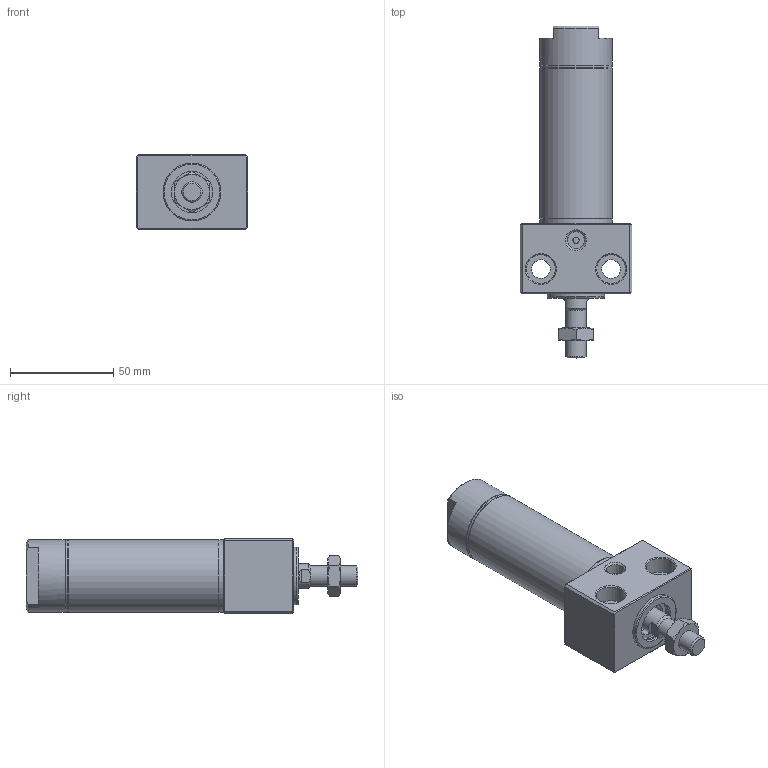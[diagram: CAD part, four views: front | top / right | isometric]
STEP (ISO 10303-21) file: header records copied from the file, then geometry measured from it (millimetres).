
FILE_DESCRIPTION((''),'2;1');
FILE_NAME('I:\3D電子目錄\氣缸\DBS\DBS\DBS30x25.stp','2007-10-08T08:42:52',('Administrator'),(''),'Autodesk Inventor 2008','Autodesk Inventor 2008','');
FILE_SCHEMA(('AUTOMOTIVE_DESIGN { 1 0 10303 214 1 1 1 1 }'));
Length unit declared in the file: millimetre
Products named in the file (1): DBS30x25
Bounding box: 54 x 160.6 x 36 mm (x, y, z)
Volume: 111239.8 mm3; surface area: 42700.8 mm2
Topology: 6 solids, 6 shells, 166 faces, 329 edges, 198 vertices
Faces by surface type: plane 75, cone 41, cylinder 35, bspline 12, torus 3
Full cylindrical faces by diameter (mm): 3 x1, 6.5 x1, 8 x1, 9 x1, 10 x2, 12 x1, 12.5 x1, 14 x1, 16 x1, 17 x2, 20 x2, 21 x3, 24 x2, 28 x3, 28.5 x2, 30 x1, 32.2 x6, 35 x4
Entity records: 4070 total; most frequent: CARTESIAN_POINT 931, DIRECTION 660, ORIENTED_EDGE 504, AXIS2_PLACEMENT_3D 289, EDGE_LOOP 278, EDGE_CURVE 252, VERTEX_POINT 192, FACE_OUTER_BOUND 166
